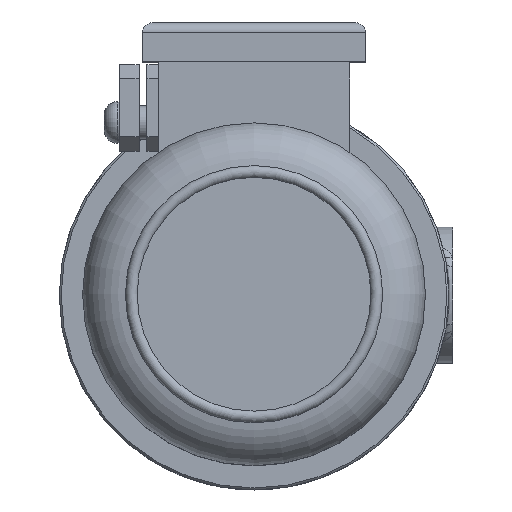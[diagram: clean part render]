
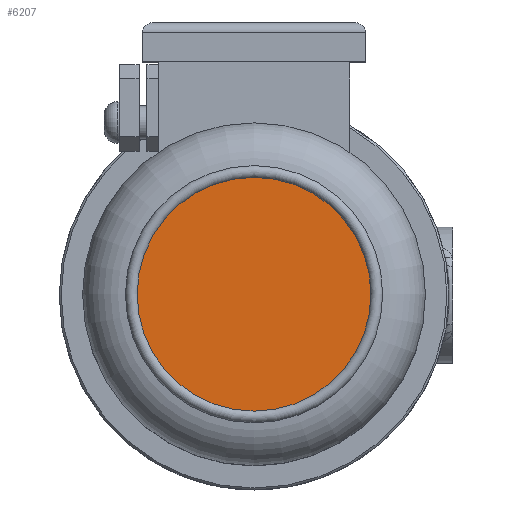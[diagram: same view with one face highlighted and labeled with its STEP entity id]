
A CAD part, top view. The second image highlights one B-rep face of the part: STEP entity #6207.
In plain terms, the highlighted planar face has unit normal (0, 0, 1).
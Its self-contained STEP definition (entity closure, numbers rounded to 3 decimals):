
#419=CIRCLE('',#6749,60.);
#1251=ORIENTED_EDGE('',*,*,#3038,.F.);
#3038=EDGE_CURVE('',#3934,#3934,#419,.T.);
#3934=VERTEX_POINT('',#10595);
#5187=EDGE_LOOP('',(#1251));
#5659=FACE_BOUND('',#5187,.T.);
#6002=PLANE('',#6750);
#6207=ADVANCED_FACE('',(#5659),#6002,.T.);
#6749=AXIS2_PLACEMENT_3D('',#10594,#7718,#7719);
#6750=AXIS2_PLACEMENT_3D('',#10596,#7720,#7721);
#7718=DIRECTION('',(0.,0.,-1.));
#7719=DIRECTION('',(-1.,0.,0.));
#7720=DIRECTION('',(0.,0.,1.));
#7721=DIRECTION('',(1.,0.,0.));
#10594=CARTESIAN_POINT('',(0.,0.,599.584));
#10595=CARTESIAN_POINT('',(-60.,0.,599.584));
#10596=CARTESIAN_POINT('',(-60.,0.,599.584));
